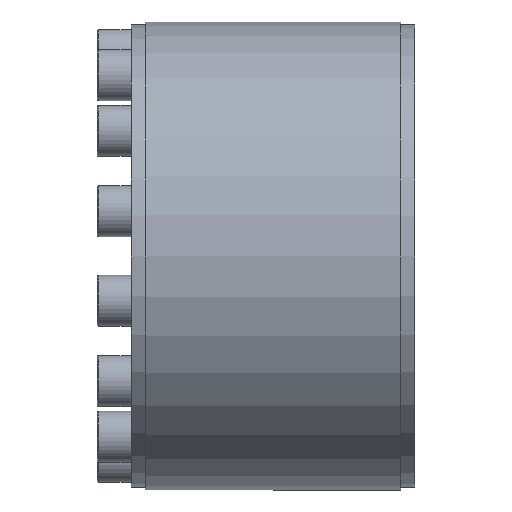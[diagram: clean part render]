
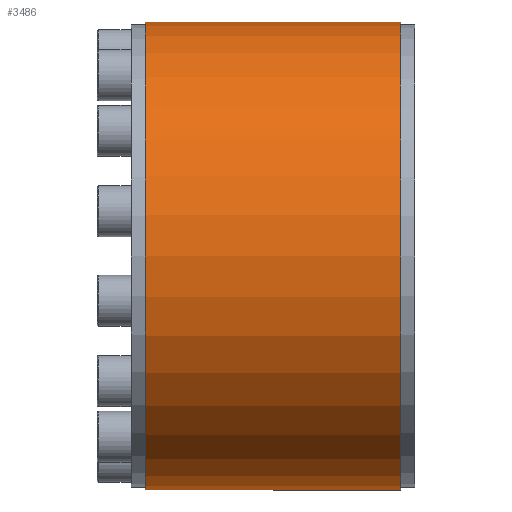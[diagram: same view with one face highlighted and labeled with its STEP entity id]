
A CAD part, left-side view. The second image highlights one B-rep face of the part: STEP entity #3486.
In plain terms, the highlighted cylindrical face has radius 82.5 mm (diameter 165 mm), a partial arc.
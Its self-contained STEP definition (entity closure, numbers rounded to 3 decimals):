
#110 = EDGE_CURVE ( 'NONE', #980, #738, #1962, .T. ) ;
#524 = LINE ( 'NONE', #4948, #3574 ) ;
#608 = DIRECTION ( 'NONE',  ( 0., 0., -1. ) ) ;
#738 = VERTEX_POINT ( 'NONE', #3329 ) ;
#773 = CARTESIAN_POINT ( 'NONE',  ( 0., 45., 0. ) ) ;
#980 = VERTEX_POINT ( 'NONE', #4715 ) ;
#1385 = AXIS2_PLACEMENT_3D ( 'NONE', #4248, #3847, #608 ) ;
#1409 = CYLINDRICAL_SURFACE ( 'NONE', #1385, 82.5 ) ;
#1559 = ORIENTED_EDGE ( 'NONE', *, *, #3925, .T. ) ;
#1588 = FACE_OUTER_BOUND ( 'NONE', #1683, .T. ) ;
#1622 = CARTESIAN_POINT ( 'NONE',  ( 0., -45., 0. ) ) ;
#1683 = EDGE_LOOP ( 'NONE', ( #3055, #2175, #1559, #4598 ) ) ;
#1809 = EDGE_CURVE ( 'NONE', #980, #2686, #2349, .T. ) ;
#1962 = LINE ( 'NONE', #4888, #4159 ) ;
#2175 = ORIENTED_EDGE ( 'NONE', *, *, #1809, .T. ) ;
#2349 = CIRCLE ( 'NONE', #2399, 82.5 ) ;
#2399 = AXIS2_PLACEMENT_3D ( 'NONE', #773, #3644, #4815 ) ;
#2485 = CARTESIAN_POINT ( 'NONE',  ( 0., 45., -82.5 ) ) ;
#2571 = CIRCLE ( 'NONE', #3707, 82.5 ) ;
#2686 = VERTEX_POINT ( 'NONE', #2485 ) ;
#3048 = VERTEX_POINT ( 'NONE', #5140 ) ;
#3055 = ORIENTED_EDGE ( 'NONE', *, *, #110, .F. ) ;
#3329 = CARTESIAN_POINT ( 'NONE',  ( 0., -45., 82.5 ) ) ;
#3335 = DIRECTION ( 'NONE',  ( 0., -1., 0. ) ) ;
#3486 = ADVANCED_FACE ( 'NONE', ( #1588 ), #1409, .T. ) ;
#3574 = VECTOR ( 'NONE', #4133, 1000. ) ;
#3644 = DIRECTION ( 'NONE',  ( 0., -1., 0. ) ) ;
#3707 = AXIS2_PLACEMENT_3D ( 'NONE', #1622, #4023, #4414 ) ;
#3847 = DIRECTION ( 'NONE',  ( 0., -1., 0. ) ) ;
#3925 = EDGE_CURVE ( 'NONE', #2686, #3048, #524, .T. ) ;
#4023 = DIRECTION ( 'NONE',  ( 0., -1., 0. ) ) ;
#4133 = DIRECTION ( 'NONE',  ( 0., -1., 0. ) ) ;
#4159 = VECTOR ( 'NONE', #3335, 1000. ) ;
#4248 = CARTESIAN_POINT ( 'NONE',  ( 0., 0., 0. ) ) ;
#4414 = DIRECTION ( 'NONE',  ( 0., 0., -1. ) ) ;
#4598 = ORIENTED_EDGE ( 'NONE', *, *, #4959, .F. ) ;
#4715 = CARTESIAN_POINT ( 'NONE',  ( 0., 45., 82.5 ) ) ;
#4815 = DIRECTION ( 'NONE',  ( 0., 0., -1. ) ) ;
#4888 = CARTESIAN_POINT ( 'NONE',  ( 0., 0., 82.5 ) ) ;
#4948 = CARTESIAN_POINT ( 'NONE',  ( 0., 0., -82.5 ) ) ;
#4959 = EDGE_CURVE ( 'NONE', #738, #3048, #2571, .T. ) ;
#5140 = CARTESIAN_POINT ( 'NONE',  ( 0., -45., -82.5 ) ) ;
